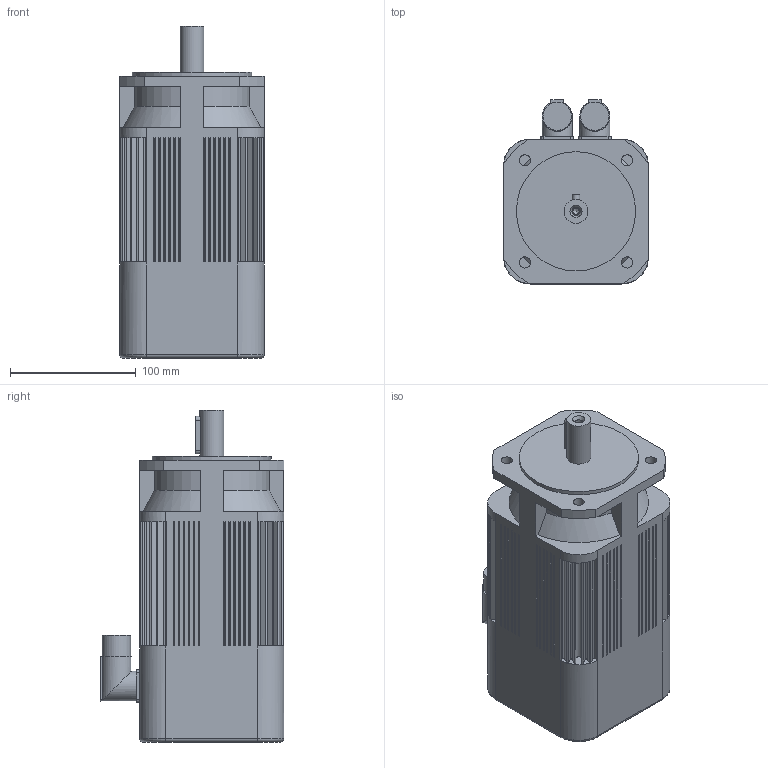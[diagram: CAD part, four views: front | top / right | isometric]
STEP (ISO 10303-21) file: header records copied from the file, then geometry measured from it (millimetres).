
FILE_DESCRIPTION(/* description */ (''),/* implementation_level */ '2;1');
FILE_NAME(/* name */ 'C:\Users\Pastrello_Ylenia\Desktop\Modelli 3D Serad\B63I\B6304Ixx6A052000.stp',/* time_stamp */ '2015-06-12T14:51:52+02:00',/* author */ ('Pastrello_Ylenia'),/* organization */ (''),/* preprocessor_version */ 'ST-DEVELOPER v15.6',/* originating_system */ 'Autodesk Inventor 2015',/* authorisation */ '');
FILE_SCHEMA (('AUTOMOTIVE_DESIGN { 1 0 10303 214 3 1 1 }'));
Length unit declared in the file: millimetre
Products named in the file (1): B6304Ixx6A052000
Bounding box: 115 x 146.5 x 264.5 mm (x, y, z)
Volume: 2760073.8 mm3; surface area: 165460 mm2
Topology: 1 solids, 1 shells, 451 faces, 1104 edges, 712 vertices
Faces by surface type: plane 352, cylinder 88, cone 7, torus 4
Full cylindrical faces by diameter (mm): 4.917 x1, 6.4 x1, 9 x4, 19 x1, 22.7 x2, 24 x2, 95 x1
Entity records: 13128 total; most frequent: CARTESIAN_POINT 2294, DIRECTION 2278, ORIENTED_EDGE 2168, EDGE_CURVE 1084, LINE 774, VECTOR 774, AXIS2_PLACEMENT_3D 752, VERTEX_POINT 708
